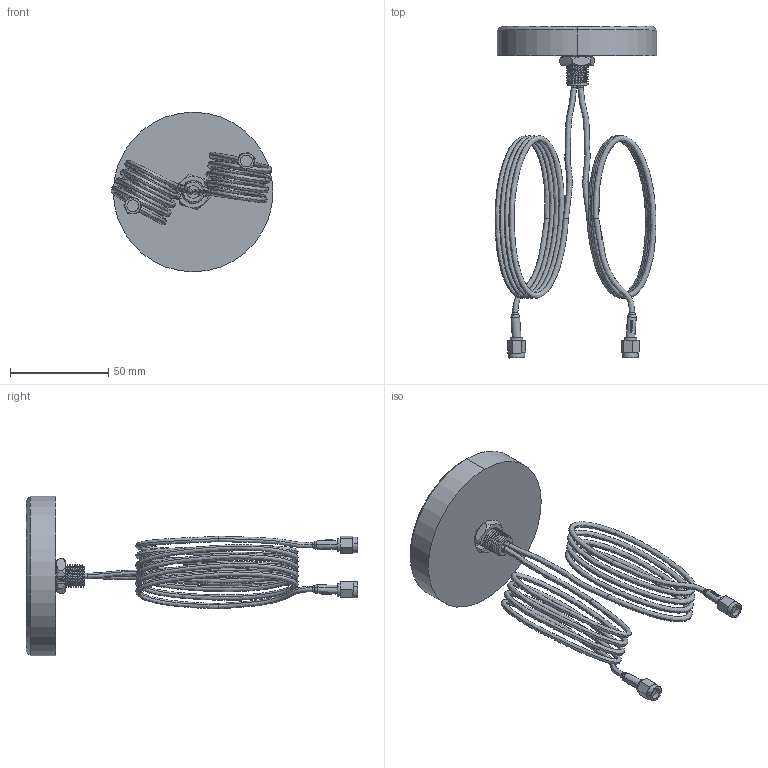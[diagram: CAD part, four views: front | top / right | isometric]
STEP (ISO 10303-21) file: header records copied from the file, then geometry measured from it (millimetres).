
FILE_DESCRIPTION (( 'STEP AP214' ), '1' );
FILE_NAME ('COMBO MIMO MOBILE ROOF SMA ANTENNA.STEP', '2020-07-01T11:45:35', ( '' ), ( '' ), 'SwSTEP 2.0', 'SolidWorks 2020', '' );
FILE_SCHEMA (( 'AUTOMOTIVE_DESIGN' ));
Length unit declared in the file: millimetre
Products named in the file (6): laidas_LTE_Main; COMBO MIMO MOBILE ROOF SMA ANTENNA; m12_nut; laidas_LTE_AUX; m12_washer
Assembly tree (5 placements, depth 2):
  COMBO MIMO MOBILE ROOF SMA ANTENNA
    COMBO MIMO MOBILE ROOF SMA ANTENNA
    laidas_LTE_AUX
    laidas_LTE_Main
    m12_nut
    m12_washer
Bounding box: 82.48 x 169.01 x 81.3 mm (x, y, z)
Volume: 89686.1 mm3; surface area: 31806.9 mm2
Topology: 5 solids, 5 shells, 299 faces, 759 edges, 496 vertices
Faces by surface type: plane 182, cylinder 52, bspline 51, cone 14
Entity records: 33050 total; most frequent: CARTESIAN_POINT 23558, ORIENTED_EDGE 1518, DIRECTION 1104, EDGE_CURVE 759, VERTEX_POINT 496, AXIS2_PLACEMENT_3D 369, LINE 366, VECTOR 366
